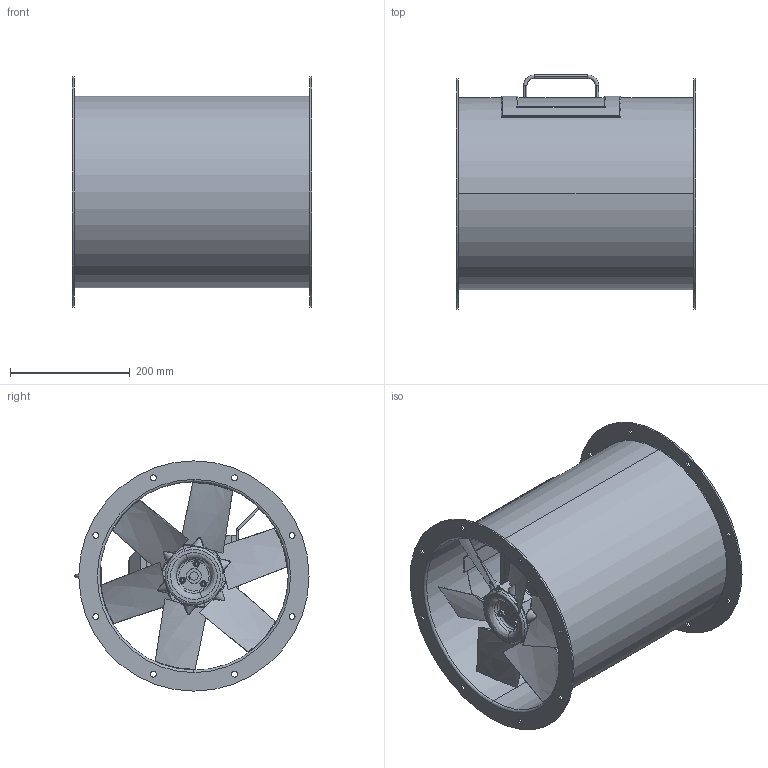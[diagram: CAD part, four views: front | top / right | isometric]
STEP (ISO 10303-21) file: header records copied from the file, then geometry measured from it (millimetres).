
FILE_DESCRIPTION (( 'STEP AP214' ), '1' );
FILE_NAME ('BRV 315_FF_L=400_mot.71.STEP', '2020-08-26T13:43:25', ( '' ), ( '' ), 'SwSTEP 2.0', 'SolidWorks 2016', '' );
FILE_SCHEMA (( 'AUTOMOTIVE_DESIGN' ));
Length unit declared in the file: millimetre
Products named in the file (13): C1-1-Bolt-Y62106160040_312_6-6_30_PPG_3HL_14_5_31_A-122312; BRV 315 insp.luke 150x150; M8_C1-1 Bolt And Nuts - 312_6-6_30_PPG_3HL_14_5_31_A-122312_2; M8_C1-1 Bolt And Nuts - 312_6-6_30_PPG_3HL_14_5_31_A-122312; 13000103075 - 312_6-6_30_PPG_3HL_14_5_31_A-122312; M8_C1-1 Bolt And Nuts - 312_6-6_30_PPG_3HL_14_5_31_A-122312_3; 312_6-6_30_PPG_3HL_14_5_31_A-122312; 20060700103 - 312_6-6_30_PPG_3HL_14_5_31_A-122312; BRV 315_FF_L=400_mot.71; C1-1-Nuts-Y63206000040_312_6-6_30_PPG_3HL_14_5_31_A-122312; 20060700503 - 312_6-6_30_PPG_3HL_14_5_31_A-122312; Hus BRV 315_FF_L=400_mot.71; 3D M3AA 71
Assembly tree (21 placements, depth 4):
  BRV 315_FF_L=400_mot.71
    Hus BRV 315_FF_L=400_mot.71
    3D M3AA 71
    312_6-6_30_PPG_3HL_14_5_31_A-122312
      20060700503 - 312_6-6_30_PPG_3HL_14_5_31_A-122312
      20060700103 - 312_6-6_30_PPG_3HL_14_5_31_A-122312
      13000103075 - 312_6-6_30_PPG_3HL_14_5_31_A-122312  x6
      M8_C1-1 Bolt And Nuts - 312_6-6_30_PPG_3HL_14_5_31_A-122312
        C1-1-Bolt-Y62106160040_312_6-6_30_PPG_3HL_14_5_31_A-122312
        C1-1-Nuts-Y63206000040_312_6-6_30_PPG_3HL_14_5_31_A-122312
      M8_C1-1 Bolt And Nuts - 312_6-6_30_PPG_3HL_14_5_31_A-122312_2
        C1-1-Bolt-Y62106160040_312_6-6_30_PPG_3HL_14_5_31_A-122312
        C1-1-Nuts-Y63206000040_312_6-6_30_PPG_3HL_14_5_31_A-122312
      M8_C1-1 Bolt And Nuts - 312_6-6_30_PPG_3HL_14_5_31_A-122312_3
        C1-1-Bolt-Y62106160040_312_6-6_30_PPG_3HL_14_5_31_A-122312
        C1-1-Nuts-Y63206000040_312_6-6_30_PPG_3HL_14_5_31_A-122312
    BRV 315 insp.luke 150x150
Bounding box: 400 x 391.5 x 385 mm (x, y, z)
Volume: 5333427.2 mm3; surface area: 1410170.5 mm2
Topology: 18 solids, 18 shells, 950 faces, 2286 edges, 1428 vertices
Faces by surface type: plane 388, cone 283, bspline 134, cylinder 129, torus 16
Entity records: 24265 total; most frequent: CARTESIAN_POINT 8555, DIRECTION 3240, ORIENTED_EDGE 3066, EDGE_CURVE 1533, AXIS2_PLACEMENT_3D 1233, VERTEX_POINT 995, LINE 774, VECTOR 774
